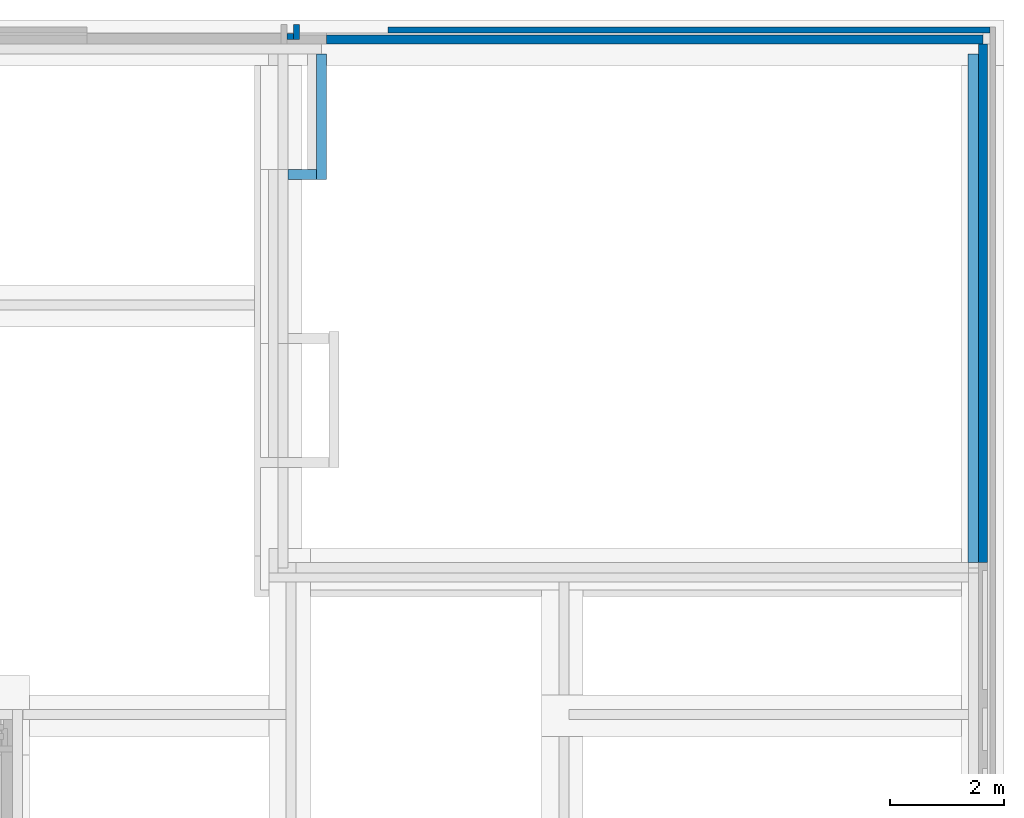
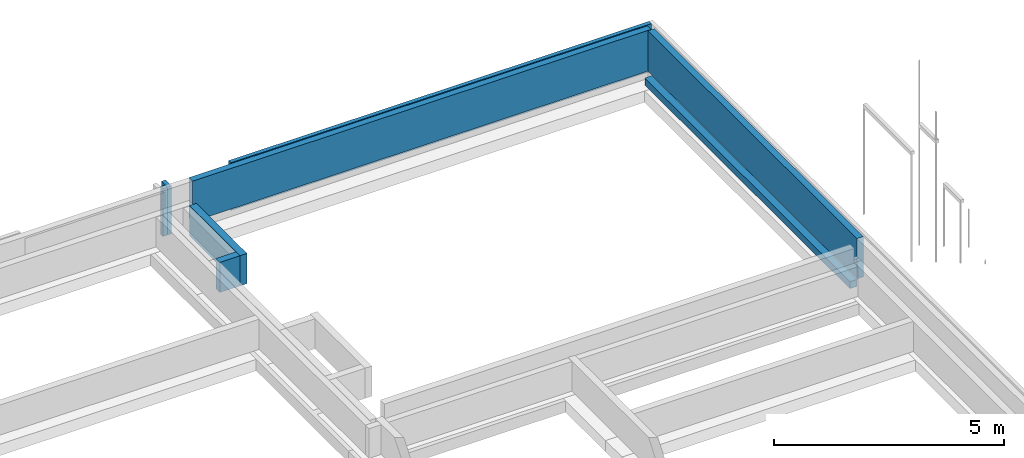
# One storey, part 9 of 15: 8 walls.
"""IFC2X3 building model written with IfcOpenShell, lengths in millimetres."""

from ifc_helpers import new_model, entity, si_unit, converted_unit, derived_unit, direction, frame, frame_2d, origin, place, context, subcontext, project, spatial, rectangle, extrude, material, layer, layer_set, layer_usage, type_object, element, save


model = new_model("IFC2X3")

# Units and contexts
model_context = context("Model", 3, precision=0.01, world=origin(), true_north=direction((6.123031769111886e-17, 1.0)))
body_context = subcontext(model_context, "Body", "Model", "MODEL_VIEW")
ifc_project = project(units=[si_unit("LENGTHUNIT", "METRE", prefix="MILLI"), si_unit("AREAUNIT", "SQUARE_METRE"), si_unit("VOLUMEUNIT", "CUBIC_METRE"), converted_unit("PLANEANGLEUNIT", "DEGREE", entity("IfcRatioMeasure", 0.017453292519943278), si_unit("PLANEANGLEUNIT", "RADIAN"), dimensions=[0, 0, 0, 0, 0, 0, 0]), si_unit("MASSUNIT", "GRAM", prefix="KILO"), derived_unit("MASSDENSITYUNIT", [(si_unit("MASSUNIT", "GRAM", prefix="KILO"), 1), (si_unit("LENGTHUNIT", "METRE"), -3)]), derived_unit("IONCONCENTRATIONUNIT", [(si_unit("MASSUNIT", "GRAM", prefix="KILO"), 1), (si_unit("LENGTHUNIT", "METRE"), -3)]), derived_unit("MOMENTOFINERTIAUNIT", [(si_unit("LENGTHUNIT", "METRE"), 4)]), si_unit("TIMEUNIT", "SECOND"), si_unit("FREQUENCYUNIT", "HERTZ"), si_unit("THERMODYNAMICTEMPERATUREUNIT", "DEGREE_CELSIUS"), derived_unit("THERMALTRANSMITTANCEUNIT", [(si_unit("MASSUNIT", "GRAM", prefix="KILO"), 1), (si_unit("THERMODYNAMICTEMPERATUREUNIT", "KELVIN"), -1), (si_unit("TIMEUNIT", "SECOND"), -3)]), derived_unit("THERMALCONDUCTANCEUNIT", [(si_unit("MASSUNIT", "GRAM", prefix="KILO"), 1), (si_unit("THERMODYNAMICTEMPERATUREUNIT", "KELVIN"), -1), (si_unit("TIMEUNIT", "SECOND"), -3), (si_unit("LENGTHUNIT", "METRE"), 1)]), derived_unit("VOLUMETRICFLOWRATEUNIT", [(si_unit("LENGTHUNIT", "METRE"), 3), (si_unit("TIMEUNIT", "SECOND"), -1)]), derived_unit("MASSFLOWRATEUNIT", [(si_unit("MASSUNIT", "GRAM", prefix="KILO"), 1), (si_unit("TIMEUNIT", "SECOND"), -1)]), derived_unit("ROTATIONALFREQUENCYUNIT", [(si_unit("TIMEUNIT", "SECOND"), -1)]), si_unit("ELECTRICCURRENTUNIT", "AMPERE"), si_unit("ELECTRICVOLTAGEUNIT", "VOLT"), si_unit("POWERUNIT", "WATT"), si_unit("FORCEUNIT", "NEWTON", prefix="KILO"), si_unit("ILLUMINANCEUNIT", "LUX"), si_unit("LUMINOUSFLUXUNIT", "LUMEN"), si_unit("LUMINOUSINTENSITYUNIT", "CANDELA"), derived_unit("USERDEFINED", [(si_unit("MASSUNIT", "GRAM", prefix="KILO"), -1), (si_unit("LENGTHUNIT", "METRE"), -2), (si_unit("TIMEUNIT", "SECOND"), 3), (si_unit("LUMINOUSFLUXUNIT", "LUMEN"), 1)]), derived_unit("USERDEFINED", [(si_unit("MASSUNIT", "GRAM", prefix="KILO"), 1), (si_unit("TIMEUNIT", "SECOND"), -3), (si_unit("LENGTHUNIT", "METRE"), 3), (si_unit("ELECTRICCURRENTUNIT", "AMPERE"), -2)]), derived_unit("SOUNDPOWERUNIT", [(si_unit("MASSUNIT", "GRAM", prefix="KILO"), 1), (si_unit("TIMEUNIT", "SECOND"), -3), (si_unit("LENGTHUNIT", "METRE"), 2)]), derived_unit("SOUNDPRESSUREUNIT", [(si_unit("MASSUNIT", "GRAM", prefix="KILO"), 1), (si_unit("LENGTHUNIT", "METRE"), -1), (si_unit("TIMEUNIT", "SECOND"), -2)]), derived_unit("LINEARVELOCITYUNIT", [(si_unit("LENGTHUNIT", "METRE"), 1), (si_unit("TIMEUNIT", "SECOND"), -1)]), si_unit("PRESSUREUNIT", "PASCAL"), derived_unit("USERDEFINED", [(si_unit("MASSUNIT", "GRAM", prefix="KILO"), 1), (si_unit("LENGTHUNIT", "METRE"), -2), (si_unit("TIMEUNIT", "SECOND"), -2)]), derived_unit("LINEARFORCEUNIT", [(si_unit("MASSUNIT", "GRAM", prefix="KILO"), 1), (si_unit("TIMEUNIT", "SECOND"), -2)]), derived_unit("PLANARFORCEUNIT", [(si_unit("MASSUNIT", "GRAM", prefix="KILO"), 1), (si_unit("LENGTHUNIT", "METRE"), -1), (si_unit("TIMEUNIT", "SECOND"), -2)]), derived_unit("SPECIFICHEATCAPACITYUNIT", [(si_unit("THERMODYNAMICTEMPERATUREUNIT", "KELVIN"), -1), (si_unit("LENGTHUNIT", "METRE"), 2), (si_unit("TIMEUNIT", "SECOND"), -2)]), derived_unit("HEATINGVALUEUNIT", [(si_unit("LENGTHUNIT", "METRE"), 2), (si_unit("TIMEUNIT", "SECOND"), -2)]), derived_unit("VAPORPERMEABILITYUNIT", [(si_unit("LENGTHUNIT", "METRE"), -1), (si_unit("TIMEUNIT", "SECOND"), 1)]), derived_unit("DYNAMICVISCOSITYUNIT", [(si_unit("MASSUNIT", "GRAM", prefix="KILO"), 1), (si_unit("TIMEUNIT", "SECOND"), -1), (si_unit("LENGTHUNIT", "METRE"), -1)]), derived_unit("THERMALEXPANSIONCOEFFICIENTUNIT", [(si_unit("THERMODYNAMICTEMPERATUREUNIT", "KELVIN"), -1)]), derived_unit("MODULUSOFELASTICITYUNIT", [(si_unit("MASSUNIT", "GRAM", prefix="KILO"), 1), (si_unit("LENGTHUNIT", "METRE"), -1), (si_unit("TIMEUNIT", "SECOND"), -2)]), derived_unit("ISOTHERMALMOISTURECAPACITYUNIT", [(si_unit("LENGTHUNIT", "METRE"), 3), (si_unit("MASSUNIT", "GRAM", prefix="KILO"), -1)]), derived_unit("MOISTUREDIFFUSIVITYUNIT", [(si_unit("TIMEUNIT", "SECOND"), -1), (si_unit("LENGTHUNIT", "METRE"), 2)])], contexts=[model_context])

# Site, building, storey
site_placement = place(None, frame((0.0, 300.0, 0.0)))
site = spatial("IfcSite", under=ifc_project, at=site_placement, Name="<Kadastrale nummers>", CompositionType="ELEMENT")
building_placement = place(site_placement, origin())
building = spatial("IfcBuilding", under=site, at=building_placement, CompositionType="ELEMENT")
storey_placement = place(building_placement, frame((0.0, 0.0, -1570.0)))
storey = spatial("IfcBuildingStorey", under=building, at=storey_placement, Name="-1 fundering", CompositionType="ELEMENT", Elevation=-1570.0)

# Walls
ifc_material_1 = material(Name="ISR_Metselwerk")
ifc_layer_1 = layer(ifc_material_1, 100.0)
ifc_layer_set_1 = layer_set([ifc_layer_1], Name="Basic Wall:21_DAT_metselwerk_100")
ifc_layer_usage_1 = layer_usage(ifc_layer_set_1, "AXIS2", "POSITIVE", -50.0)
wall_type_1 = type_object("IfcWallType", Name="Basic Wall:21_DAT_metselwerk_100", PredefinedType="STANDARD", material=ifc_layer_set_1)
wall_1_placement = place(storey_placement, frame((48875.0, 50125.0, 300.0), z_axis=(0.0, 0.0, 1.0), x_axis=(-1.0, 0.0, 0.0)))
element("IfcWallStandardCase", 1, at=wall_1_placement, inside=storey, type_object=wall_type_1, material=ifc_layer_usage_1, Name="Basic Wall:21_DAT_metselwerk_100", ObjectType="Basic Wall:21_DAT_metselwerk_100", context=body_context, shape_type="SweptSolid", body=[
    extrude(rectangle(XDim=10560.000000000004, YDim=99.9999999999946, at=frame_2d((5280.000000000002, -5.684341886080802e-14), x_axis=(-1.0, 0.0))), origin(), (0.0, 0.0, 1.0), 1270.0000000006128),
])
ifc_layer_usage_2 = layer_usage(ifc_layer_set_1, "AXIS2", "NEGATIVE", 50.0)
wall_2_placement = place(storey_placement, frame((36540.0, 50010.0, 300.0)))
element("IfcWallStandardCase", 2, at=wall_2_placement, inside=storey, type_object=wall_type_1, material=ifc_layer_usage_2, Name="Basic Wall:21_DAT_metselwerk_100", ObjectType="Basic Wall:21_DAT_metselwerk_100", context=body_context, shape_type="SweptSolid", body=[
    extrude(rectangle(XDim=120.00000000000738, YDim=99.99999999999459, at=frame_2d((60.00000000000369, 0.0), x_axis=(-1.0, 0.0))), origin(), (0.0, 0.0, 1.0), 1270.0000000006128),
])
wall_3_placement = place(storey_placement, frame((36710.0, 49960.0, 300.0), z_axis=(0.0, 0.0, 1.0), x_axis=(0.0, 1.0, 0.0)))
element("IfcWallStandardCase", 3, at=wall_3_placement, inside=storey, type_object=wall_type_1, material=ifc_layer_usage_1, Name="Basic Wall:21_DAT_metselwerk_100", ObjectType="Basic Wall:21_DAT_metselwerk_100", context=body_context, shape_type="SweptSolid", body=[
    extrude(rectangle(XDim=264.9999999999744, YDim=100.00000000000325, at=frame_2d((132.4999999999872, -1.0054179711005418e-12), x_axis=(-1.0, 0.0))), origin(), (0.0, 0.0, 1.0), 1270.0000000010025),
])
ifc_material_2 = material(Name="ISR_Gips")
ifc_layer_2 = layer(ifc_material_2, 1.0)
ifc_material_3 = material(Name="ISR_Beton ihwg")
ifc_layer_3 = layer(ifc_material_3, 178.0)
ifc_layer_4 = layer(ifc_material_2, 1.0)
ifc_layer_set_2 = layer_set([ifc_layer_2, ifc_layer_3, ifc_layer_4], Name="Basic Wall:28_DAT_ihw beton_180")
ifc_layer_usage_3 = layer_usage(ifc_layer_set_2, "AXIS2", "POSITIVE", -90.00000000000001)
wall_type_2 = type_object("IfcWallType", Name="Basic Wall:28_DAT_ihw beton_180", PredefinedType="STANDARD", material=ifc_layer_set_2)
wall_4_placement = place(storey_placement, frame((48585.0, 40775.0, 300.0), z_axis=(0.0, 0.0, 1.0), x_axis=(0.0, 1.0, 0.0)))
element("IfcWallStandardCase", 4, at=wall_4_placement, inside=storey, type_object=wall_type_2, material=ifc_layer_usage_3, Name="Basic Wall:28_DAT_ihw beton_180", ObjectType="Basic Wall:28_DAT_ihw beton_180", context=body_context, shape_type="SweptSolid", body=[
    extrude(rectangle(XDim=8924.999999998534, YDim=179.99999999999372, at=frame_2d((4462.499999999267, 0.0), x_axis=(-1.0, 0.0))), origin(), (0.0, 0.0, 1.0), 188.00000000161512),
])
ifc_layer_5 = layer(ifc_material_2, 1.0)
ifc_material_4 = material(Name="ISR_Kalkzandsteen")
ifc_layer_6 = layer(ifc_material_4, 173.0)
ifc_layer_7 = layer(ifc_material_2, 1.0)
ifc_layer_set_3 = layer_set([ifc_layer_5, ifc_layer_6, ifc_layer_7], Name="Basic Wall:28_DAT_kalkzandsteen_175mm")
ifc_layer_usage_4 = layer_usage(ifc_layer_set_3, "AXIS2", "NEGATIVE", 87.49999999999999)
wall_type_3 = type_object("IfcWallType", Name="Basic Wall:28_DAT_kalkzandsteen_175mm", PredefinedType="STANDARD", material=ifc_layer_set_3)
wall_5_placement = place(storey_placement, frame((37147.53993788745, 49700.0, 300.0), z_axis=(0.0, 0.0, 1.0), x_axis=(0.0, -1.0, 0.0)))
element("IfcWallStandardCase", 5, at=wall_5_placement, inside=storey, type_object=wall_type_3, material=ifc_layer_usage_4, Name="Basic Wall:28_DAT_kalkzandsteen_175mm", ObjectType="Basic Wall:28_DAT_kalkzandsteen_175mm", context=body_context, shape_type="SweptSolid", body=[
    extrude(rectangle(XDim=2195.0000000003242, YDim=175.00000000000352, at=frame_2d((1097.5000000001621, 7.602807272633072e-13), x_axis=(-1.0, 0.0))), origin(), (0.0, 0.0, 1.0), 800.0000000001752),
])
wall_6_placement = place(storey_placement, frame((36555.03993788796, 47592.49999999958, 300.0)))
element("IfcWallStandardCase", 6, at=wall_6_placement, inside=storey, type_object=wall_type_3, material=ifc_layer_usage_4, Name="Basic Wall:28_DAT_kalkzandsteen_175mm", ObjectType="Basic Wall:28_DAT_kalkzandsteen_175mm", context=body_context, shape_type="SweptSolid", body=[
    extrude(rectangle(XDim=504.9999999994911, YDim=174.99999999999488, at=frame_2d((252.49999999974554, 3.609557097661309e-12), x_axis=(-1.0, 0.0))), origin(), (0.0, 0.0, 1.0), 800.0000000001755),
])
ifc_material_5 = material(Name="ISR_Isolatie")
ifc_layer_8 = layer(ifc_material_5, 160.0)
ifc_layer_set_4 = layer_set([ifc_layer_8], Name="Basic Wall:21_DAT_isolatie minerale wol_160")
ifc_layer_usage_5 = layer_usage(ifc_layer_set_4, "AXIS2", "NEGATIVE", 80.0)
wall_type_4 = type_object("IfcWallType", Name="Basic Wall:21_DAT_isolatie minerale wol_160", PredefinedType="STANDARD", material=ifc_layer_set_4)
wall_7_placement = place(storey_placement, frame((48755.0, 49875.0, 500.0), z_axis=(0.0, 0.0, 1.0), x_axis=(0.0, -1.0, 0.0)))
element("IfcWallStandardCase", 7, at=wall_7_placement, inside=storey, type_object=wall_type_4, material=ifc_layer_usage_5, Name="Basic Wall:21_DAT_isolatie minerale wol_160", ObjectType="Basic Wall:21_DAT_isolatie minerale wol_160", context=body_context, shape_type="SweptSolid", body=[
    extrude(rectangle(XDim=9100.000000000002, YDim=159.9999999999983, at=frame_2d((4550.000000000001, -1.2150280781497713e-12), x_axis=(-1.0, 0.0))), origin(), (0.0, 0.0, 1.0), 1070.0000000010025),
])
wall_8_placement = place(storey_placement, frame((37235.0, 49955.0, 500.0)))
element("IfcWallStandardCase", 8, at=wall_8_placement, inside=storey, type_object=wall_type_4, material=ifc_layer_usage_5, Name="Basic Wall:21_DAT_isolatie minerale wol_160", ObjectType="Basic Wall:21_DAT_isolatie minerale wol_160", context=body_context, shape_type="SweptSolid", body=[
    extrude(rectangle(XDim=11520.000000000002, YDim=159.9999999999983, at=frame_2d((5760.000000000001, 1.0587086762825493e-12), x_axis=(-1.0, 0.0))), origin(), (0.0, 0.0, 1.0), 1080.0000000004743),
])

save(model, "model.ifc")
